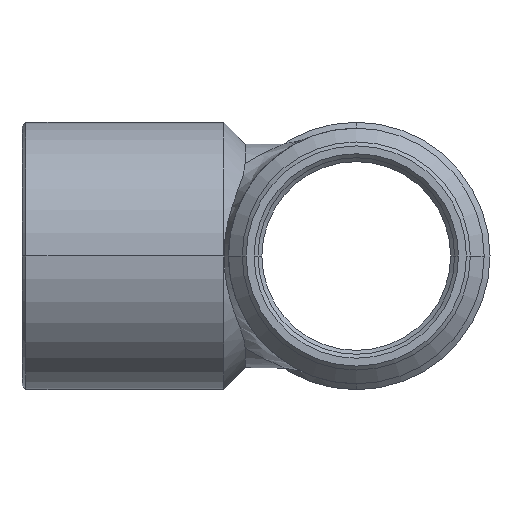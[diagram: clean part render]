
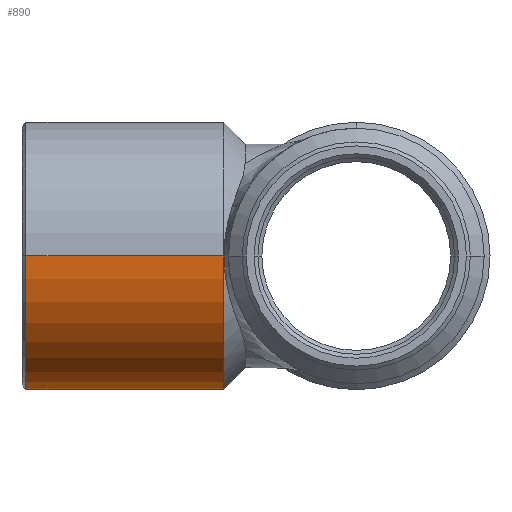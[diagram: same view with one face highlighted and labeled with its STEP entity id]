
A CAD part, left-side view. The second image highlights one B-rep face of the part: STEP entity #890.
In plain terms, the highlighted cylindrical face has radius 6.8 mm (diameter 13.6 mm), a partial arc.
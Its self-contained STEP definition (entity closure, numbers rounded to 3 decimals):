
#91=CARTESIAN_POINT('',(-6.8,6.75,0.));
#92=VERTEX_POINT('',#91);
#101=CARTESIAN_POINT('',(6.8,6.75,0.));
#102=VERTEX_POINT('',#101);
#103=CARTESIAN_POINT('',(0.,6.75,0.0));
#104=DIRECTION('',(0.0,-1.0,0.0));
#105=DIRECTION('',(-1.0,0.0,0.0));
#106=AXIS2_PLACEMENT_3D('',#103,#104,#105);
#107=CIRCLE('',#106,6.8);
#108=EDGE_CURVE('',#92,#102,#107,.T.);
#859=CARTESIAN_POINT('',(0.,17.0,0.0));
#860=DIRECTION('',(0.,-1.0,0.0));
#861=DIRECTION('',(-1.0,0.0,0.0));
#862=AXIS2_PLACEMENT_3D('',#859,#860,#861);
#863=CYLINDRICAL_SURFACE('',#862,6.8);
#864=CARTESIAN_POINT('',(-6.8,16.8,0.));
#865=VERTEX_POINT('',#864);
#866=CARTESIAN_POINT('',(-6.8,16.8,0.));
#867=DIRECTION('',(0.0,-1.0,0.0));
#868=VECTOR('',#867,10.05);
#869=LINE('',#866,#868);
#870=EDGE_CURVE('',#865,#92,#869,.T.);
#871=ORIENTED_EDGE('',*,*,#870,.F.);
#872=CARTESIAN_POINT('',(6.8,16.8,0.));
#873=VERTEX_POINT('',#872);
#874=CARTESIAN_POINT('',(0.,16.8,0.0));
#875=DIRECTION('',(0.0,1.0,0.0));
#876=DIRECTION('',(-1.0,0.0,0.0));
#877=AXIS2_PLACEMENT_3D('',#874,#875,#876);
#878=CIRCLE('',#877,6.8);
#879=EDGE_CURVE('',#873,#865,#878,.T.);
#880=ORIENTED_EDGE('',*,*,#879,.F.);
#881=CARTESIAN_POINT('',(6.8,6.75,0.));
#882=DIRECTION('',(0.0,1.0,0.0));
#883=VECTOR('',#882,10.05);
#884=LINE('',#881,#883);
#885=EDGE_CURVE('',#102,#873,#884,.T.);
#886=ORIENTED_EDGE('',*,*,#885,.F.);
#887=ORIENTED_EDGE('',*,*,#108,.F.);
#888=EDGE_LOOP('',(#871,#880,#886,#887));
#889=FACE_OUTER_BOUND('',#888,.T.);
#890=ADVANCED_FACE('',(#889),#863,.T.);
